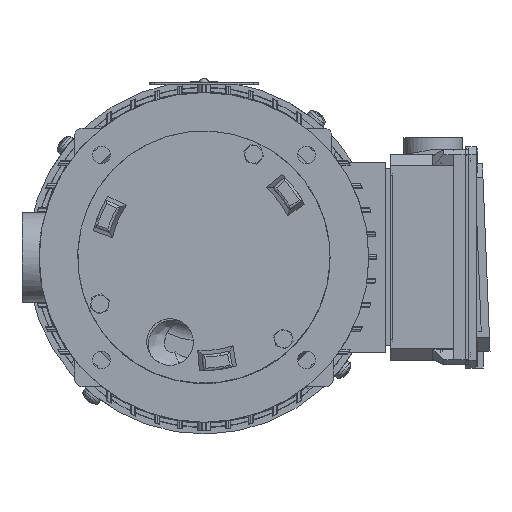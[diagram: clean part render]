
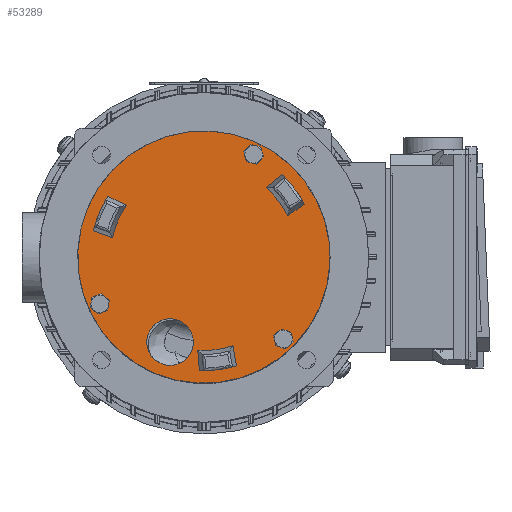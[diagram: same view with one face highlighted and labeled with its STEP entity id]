
A CAD part, front view. The second image highlights one B-rep face of the part: STEP entity #53289.
In plain terms, the highlighted planar face has unit normal (0, -1, 0).
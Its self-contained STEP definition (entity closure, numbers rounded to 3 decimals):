
#2774=FACE_BOUND('',#15201,.T.);
#2775=FACE_BOUND('',#15202,.T.);
#2776=FACE_BOUND('',#15203,.T.);
#2777=FACE_BOUND('',#15204,.T.);
#2778=FACE_BOUND('',#15205,.T.);
#2779=FACE_BOUND('',#15206,.T.);
#2780=FACE_BOUND('',#15207,.T.);
#3858=LINE('',#82191,#8180);
#3863=LINE('',#82275,#8185);
#3868=LINE('',#82366,#8190);
#3869=LINE('',#82380,#8191);
#3870=LINE('',#82385,#8192);
#3871=LINE('',#82394,#8193);
#8180=VECTOR('',#63754,1.);
#8185=VECTOR('',#63781,1.);
#8190=VECTOR('',#63814,1.);
#8191=VECTOR('',#63825,1.);
#8192=VECTOR('',#63832,1.);
#8193=VECTOR('',#63841,1.);
#12378=FACE_OUTER_BOUND('',#15200,.T.);
#15200=EDGE_LOOP('',(#36054));
#15201=EDGE_LOOP('',(#36055,#36056));
#15202=EDGE_LOOP('',(#36057,#36058));
#15203=EDGE_LOOP('',(#36059,#36060));
#15204=EDGE_LOOP('',(#36061,#36062,#36063,#36064));
#15205=EDGE_LOOP('',(#36065,#36066,#36067,#36068));
#15206=EDGE_LOOP('',(#36069,#36070,#36071,#36072));
#15207=EDGE_LOOP('',(#36073));
#18105=CIRCLE('',#56609,0.302);
#18106=CIRCLE('',#56610,0.302);
#18120=CIRCLE('',#56643,0.302);
#18121=CIRCLE('',#56644,0.302);
#18135=CIRCLE('',#56677,0.302);
#18136=CIRCLE('',#56678,0.302);
#18154=CIRCLE('',#56711,0.925);
#18165=CIRCLE('',#56726,5.);
#18174=CIRCLE('',#56746,3.702);
#18179=CIRCLE('',#56762,4.502);
#18184=CIRCLE('',#56776,4.502);
#18185=CIRCLE('',#56780,3.702);
#18186=CIRCLE('',#56784,4.502);
#18187=CIRCLE('',#56787,3.702);
#20638=VERTEX_POINT('',#81528);
#20639=VERTEX_POINT('',#81529);
#20665=VERTEX_POINT('',#81640);
#20666=VERTEX_POINT('',#81641);
#20692=VERTEX_POINT('',#81752);
#20693=VERTEX_POINT('',#81753);
#20716=VERTEX_POINT('',#81964);
#20726=VERTEX_POINT('',#82072);
#20738=VERTEX_POINT('',#82179);
#20739=VERTEX_POINT('',#82183);
#20740=VERTEX_POINT('',#82189);
#20751=VERTEX_POINT('',#82272);
#20752=VERTEX_POINT('',#82274);
#20753=VERTEX_POINT('',#82280);
#20764=VERTEX_POINT('',#82363);
#20765=VERTEX_POINT('',#82365);
#20766=VERTEX_POINT('',#82371);
#20767=VERTEX_POINT('',#82376);
#20768=VERTEX_POINT('',#82384);
#20769=VERTEX_POINT('',#82390);
#26319=EDGE_CURVE('',#20638,#20639,#18105,.T.);
#26320=EDGE_CURVE('',#20639,#20638,#18106,.T.);
#26361=EDGE_CURVE('',#20665,#20666,#18120,.T.);
#26362=EDGE_CURVE('',#20666,#20665,#18121,.T.);
#26403=EDGE_CURVE('',#20692,#20693,#18135,.T.);
#26404=EDGE_CURVE('',#20693,#20692,#18136,.T.);
#26446=EDGE_CURVE('',#20716,#20716,#18154,.T.);
#26464=EDGE_CURVE('',#20726,#20726,#18165,.T.);
#26486=EDGE_CURVE('',#20739,#20738,#18174,.T.);
#26489=EDGE_CURVE('',#20738,#20740,#3858,.T.);
#26505=EDGE_CURVE('',#20752,#20751,#3863,.T.);
#26508=EDGE_CURVE('',#20751,#20753,#18179,.T.);
#26524=EDGE_CURVE('',#20765,#20764,#3868,.T.);
#26527=EDGE_CURVE('',#20764,#20766,#18184,.T.);
#26529=EDGE_CURVE('',#20766,#20767,#3869,.T.);
#26530=EDGE_CURVE('',#20767,#20765,#18185,.T.);
#26531=EDGE_CURVE('',#20768,#20739,#3870,.T.);
#26533=EDGE_CURVE('',#20740,#20768,#18186,.T.);
#26535=EDGE_CURVE('',#20753,#20769,#3871,.T.);
#26536=EDGE_CURVE('',#20769,#20752,#18187,.T.);
#36054=ORIENTED_EDGE('',*,*,#26464,.T.);
#36055=ORIENTED_EDGE('',*,*,#26319,.T.);
#36056=ORIENTED_EDGE('',*,*,#26320,.T.);
#36057=ORIENTED_EDGE('',*,*,#26361,.T.);
#36058=ORIENTED_EDGE('',*,*,#26362,.T.);
#36059=ORIENTED_EDGE('',*,*,#26403,.T.);
#36060=ORIENTED_EDGE('',*,*,#26404,.T.);
#36061=ORIENTED_EDGE('',*,*,#26529,.T.);
#36062=ORIENTED_EDGE('',*,*,#26530,.T.);
#36063=ORIENTED_EDGE('',*,*,#26524,.T.);
#36064=ORIENTED_EDGE('',*,*,#26527,.T.);
#36065=ORIENTED_EDGE('',*,*,#26531,.T.);
#36066=ORIENTED_EDGE('',*,*,#26486,.T.);
#36067=ORIENTED_EDGE('',*,*,#26489,.T.);
#36068=ORIENTED_EDGE('',*,*,#26533,.T.);
#36069=ORIENTED_EDGE('',*,*,#26535,.T.);
#36070=ORIENTED_EDGE('',*,*,#26536,.T.);
#36071=ORIENTED_EDGE('',*,*,#26505,.T.);
#36072=ORIENTED_EDGE('',*,*,#26508,.T.);
#36073=ORIENTED_EDGE('',*,*,#26446,.T.);
#48545=PLANE('',#56788);
#53289=ADVANCED_FACE('',(#12378,#2774,#2775,#2776,#2777,#2778,#2779,#2780),
#48545,.F.);
#56609=AXIS2_PLACEMENT_3D('',#81530,#63421,#63422);
#56610=AXIS2_PLACEMENT_3D('',#81531,#63423,#63424);
#56643=AXIS2_PLACEMENT_3D('',#81642,#63504,#63505);
#56644=AXIS2_PLACEMENT_3D('',#81643,#63506,#63507);
#56677=AXIS2_PLACEMENT_3D('',#81754,#63587,#63588);
#56678=AXIS2_PLACEMENT_3D('',#81755,#63589,#63590);
#56711=AXIS2_PLACEMENT_3D('',#81966,#63671,#63672);
#56726=AXIS2_PLACEMENT_3D('',#82073,#63703,#63704);
#56746=AXIS2_PLACEMENT_3D('',#82184,#63748,#63749);
#56762=AXIS2_PLACEMENT_3D('',#82282,#63786,#63787);
#56776=AXIS2_PLACEMENT_3D('',#82373,#63819,#63820);
#56780=AXIS2_PLACEMENT_3D('',#82382,#63828,#63829);
#56784=AXIS2_PLACEMENT_3D('',#82388,#63837,#63838);
#56787=AXIS2_PLACEMENT_3D('',#82396,#63844,#63845);
#56788=AXIS2_PLACEMENT_3D('',#82397,#63846,#63847);
#63421=DIRECTION('center_axis',(0.,1.,0.));
#63422=DIRECTION('ref_axis',(0.966,0.,-0.258));
#63423=DIRECTION('center_axis',(0.,1.,0.));
#63424=DIRECTION('ref_axis',(0.966,0.,-0.258));
#63504=DIRECTION('center_axis',(0.,1.,0.));
#63505=DIRECTION('ref_axis',(0.941,0.,0.337));
#63506=DIRECTION('center_axis',(0.,1.,0.));
#63507=DIRECTION('ref_axis',(0.941,0.,0.337));
#63587=DIRECTION('center_axis',(0.,1.,0.));
#63588=DIRECTION('ref_axis',(0.732,0.,0.682));
#63589=DIRECTION('center_axis',(0.,1.,0.));
#63590=DIRECTION('ref_axis',(0.732,0.,0.682));
#63671=DIRECTION('center_axis',(0.,1.,0.));
#63672=DIRECTION('ref_axis',(-0.797,0.,-0.604));
#63703=DIRECTION('center_axis',(0.,-1.,0.));
#63704=DIRECTION('ref_axis',(-0.797,0.,-0.604));
#63748=DIRECTION('center_axis',(0.,-1.,0.));
#63749=DIRECTION('ref_axis',(0.832,0.,-0.555));
#63754=DIRECTION('',(-0.94,0.,0.342));
#63781=DIRECTION('',(0.174,0.,-0.985));
#63786=DIRECTION('center_axis',(0.,1.,0.));
#63787=DIRECTION('ref_axis',(-0.04,0.,-0.999));
#63814=DIRECTION('',(0.766,0.,0.643));
#63819=DIRECTION('center_axis',(0.,1.,0.));
#63820=DIRECTION('ref_axis',(0.885,0.,0.465));
#63825=DIRECTION('',(-0.826,0.,-0.564));
#63828=DIRECTION('center_axis',(0.,-1.,0.));
#63829=DIRECTION('ref_axis',(-0.897,0.,-0.443));
#63832=DIRECTION('',(0.901,0.,-0.433));
#63837=DIRECTION('center_axis',(0.,1.,0.));
#63838=DIRECTION('ref_axis',(-0.845,0.,0.534));
#63841=DIRECTION('',(-0.076,0.,0.997));
#63844=DIRECTION('center_axis',(0.,-1.,0.));
#63845=DIRECTION('ref_axis',(0.065,0.,0.998));
#63846=DIRECTION('center_axis',(0.,1.,0.));
#63847=DIRECTION('ref_axis',(-0.604,0.,0.797));
#81528=CARTESIAN_POINT('',(2.257,-22.045,4.008));
#81529=CARTESIAN_POINT('',(1.674,-22.045,4.164));
#81530=CARTESIAN_POINT('Origin',(1.965,-22.045,4.086));
#81531=CARTESIAN_POINT('Origin',(1.965,-22.045,4.086));
#81640=CARTESIAN_POINT('',(-3.85,-22.045,-1.739));
#81641=CARTESIAN_POINT('',(-4.418,-22.045,-1.942));
#81642=CARTESIAN_POINT('Origin',(-4.134,-22.045,-1.84));
#81643=CARTESIAN_POINT('Origin',(-4.134,-22.045,-1.84));
#81752=CARTESIAN_POINT('',(3.368,-22.045,-3.027));
#81753=CARTESIAN_POINT('',(2.927,-22.045,-3.438));
#81754=CARTESIAN_POINT('Origin',(3.148,-22.045,-3.232));
#81755=CARTESIAN_POINT('Origin',(3.148,-22.045,-3.232));
#81964=CARTESIAN_POINT('',(-0.608,-22.045,-2.797));
#81966=CARTESIAN_POINT('Origin',(-1.345,-22.045,-3.356));
#82072=CARTESIAN_POINT('',(3.978,-22.045,3.034));
#82073=CARTESIAN_POINT('Origin',(-0.006,-22.045,
0.013));
#82179=CARTESIAN_POINT('',(-3.627,-22.045,0.777));
#82183=CARTESIAN_POINT('',(-3.084,-22.045,2.068));
#82184=CARTESIAN_POINT('Origin',(-0.006,-22.045,
0.013));
#82189=CARTESIAN_POINT('',(-4.385,-22.045,1.053));
#82191=CARTESIAN_POINT('',(-2.284,-22.045,0.289));
#82272=CARTESIAN_POINT('',(1.283,-22.045,-4.3));
#82274=CARTESIAN_POINT('',(1.143,-22.045,-3.506));
#82275=CARTESIAN_POINT('',(0.894,-22.045,-2.099));
#82280=CARTESIAN_POINT('',(-0.185,-22.045,-4.485));
#82282=CARTESIAN_POINT('Origin',(-0.006,-22.045,
0.013));
#82363=CARTESIAN_POINT('',(3.085,-22.045,3.286));
#82365=CARTESIAN_POINT('',(2.467,-22.045,2.767));
#82366=CARTESIAN_POINT('',(1.373,-22.045,1.848));
#82371=CARTESIAN_POINT('',(3.979,-22.045,2.106));
#82373=CARTESIAN_POINT('Origin',(-0.006,-22.045,
0.013));
#82376=CARTESIAN_POINT('',(3.313,-22.045,1.652));
#82380=CARTESIAN_POINT('',(1.8,-22.045,0.618));
#82382=CARTESIAN_POINT('Origin',(-0.006,-22.045,
0.013));
#82384=CARTESIAN_POINT('',(-3.811,-22.045,2.417));
#82385=CARTESIAN_POINT('',(-1.433,-22.045,1.274));
#82388=CARTESIAN_POINT('Origin',(-0.006,-22.045,
0.013));
#82390=CARTESIAN_POINT('',(-0.246,-22.045,-3.681));
#82394=CARTESIAN_POINT('',(-0.385,-22.045,-1.854));
#82396=CARTESIAN_POINT('Origin',(-0.006,-22.045,
0.013));
#82397=CARTESIAN_POINT('Origin',(-0.006,-22.045,
0.013));
